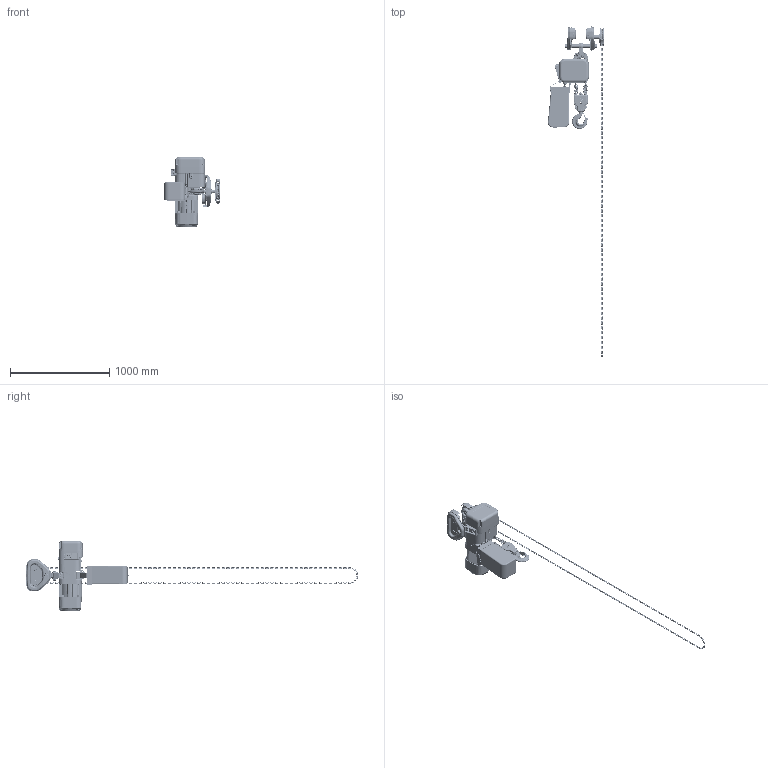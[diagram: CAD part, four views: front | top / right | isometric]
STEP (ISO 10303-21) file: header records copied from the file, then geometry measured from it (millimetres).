
FILE_DESCRIPTION (( 'STEP AP214' ), '1' );
FILE_NAME ('NER2G030C.STEP', '2026-08-04T15:08:41', ( '' ), ( '' ), 'SwSTEP 2.0', 'SolidWorks 2026', '' );
FILE_SCHEMA (( 'AUTOMOTIVE_DESIGN' ));
Length unit declared in the file: inch
Products named in the file (93): LCER2020NP_14 LINKS; T6GA0309113; T6GA0309122; ER2ES9107_ER2ES9107; ER2ES9338; MS164020; ER2ER9015; T7GA0305112; T6G800030G; ER2ER9011; J1WS011-20100_Rectangular section spring washer BS 4464 - 16 (Type B); ER2CS9511; T6GA0109126; ER2ES5403; MS561010; 9047125_B27.7M - 3AM1-23; ES066075; T6G5121010; 9091255_9091255; LCER2020NP_8 LINKS; T7GB004030; 9009416_9009416; E3S112003; ENDS2E2; T7G115030; NER2030C_FOR MANUAL TROLLEY; 90912107_B18.3.1M - 10 x 1.5 x 100 Hex SHCS -- 100CHX; J1BG10604024_J1BG10604024; BK2E1_for (N)ER2020L; T6GA0109125; J1NA001-20100_B18.2.4.1M - Hex nut, Style 1,  M10 x 1.5, with 16mm WAF --D-C; single coil rectangular section spring washer_bsi_9012711; T7G117030; ER2ES9186; T6G123010; T6GA0309112; split pin (metric) as_9009423; E3S111003; M2049020_JIS B 1170 Small hexagon slotted nut Class 1 Low type Medium M10 --N; ER2CS9357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
Assembly tree (453 placements, depth 5):
  NER2G030C
    NER2030C_FOR MANUAL TROLLEY
      ER2ES9104_ER2ES9104
      ER2ES9103
      ER2ES9101
      ER2ES9105
      ER2ES9107_ER2ES9107
      9091255_9091255  x4
      90912116_90912116  x4
      J1BG10604024_J1BG10604024  x4
      E3S112003
      E3S111003
      ER2ES9331
      single coil rectangular section spring washer_bsi_9012711  x4
      socket head cap screw_am_9091274  x4
      ER2ES9337
      ER2ES9338
      ER2CS9357
      ENDS2E2
        90912107_B18.3.1M - 10 x 1.5 x 100 Hex SHCS -- 100CHX
        ES066075
      ES127005S
      ER1BS9135
      ER2ES9121  x2
      ER2ES9123
      socket head cap screw_am_B18.3.1M - 6 x 1.0 x 12 Hex SHCS -- 12CHX
      ER2ES9186
      ER2ER9030
      ER1ES9032
      ER2ER1011
        ER2ER9011
        ER2ER1002
        ER2ER2015
          ER2ER9015  x2
          J1BA1-1004026_B18.2.3.1M - Hex cap screw, M10 x 1.5 x 40 --40C  x3
          J1WS011-20100_Rectangular section spring washer BS 4464 - 16 (Type B)  x3
          J1NA001-20100_B18.2.4.1M - Hex nut, Style 1,  M10 x 1.5, with 16mm WAF --D-C  x3
      ES047015  x2
      ER1ES9054
      LCER2020NP_14 LINKS
        LCER2020NP  x14
      ES041030
      M2049020_JIS B 1170 Small hexagon slotted nut Class 1 Low type Medium M10 --N
      9009416_9009416
      LCER2020NP_8 LINKS
        LCER2020NP  x8
      ER1ES1041
      ER2BHM20S9A5
      ER2BHM30R9A6
      ES088020L_ES088020
      9009436_9009436
      T7GB004030
      ER2EI4511
        ER2CS9511
        MS561010  x8
        ER2EI2523
        ER2EI2564
        ES558003  x8
      BK2E1_for (N)ER2020L
        ER2ES5403
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Bounding box: 565.43 x 3338.82 x 701.6 mm (x, y, z)
Volume: 33580370.3 mm3; surface area: 4494224.2 mm2
Topology: 457 solids, 474 shells, 14372 faces, 35543 edges, 21523 vertices
Faces by surface type: cylinder 5233, plane 4213, torus 2888, bspline 910, cone 868, sphere 260
Entity records: 317980 total; most frequent: CARTESIAN_POINT 115631, ORIENTED_EDGE 41020, DIRECTION 39989, EDGE_CURVE 20512, AXIS2_PLACEMENT_3D 15887, VERTEX_POINT 12868, EDGE_LOOP 8686, VECTOR 8215
